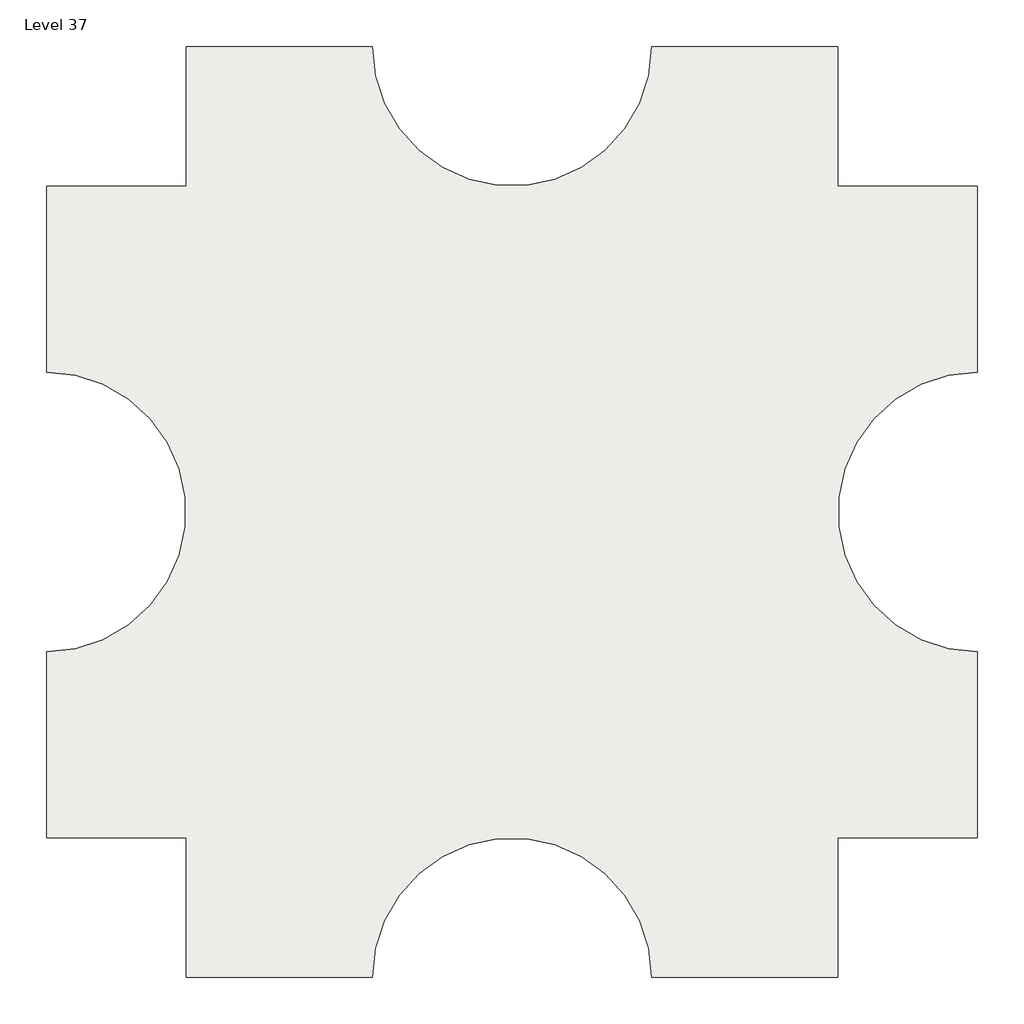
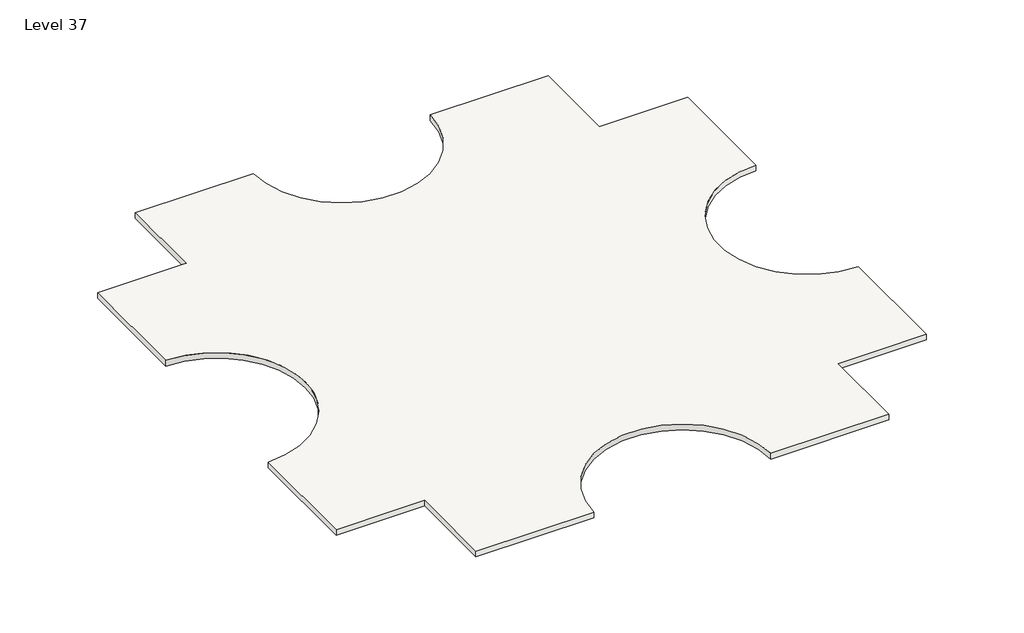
# One storey: 2 slabs.
"""IFC4 building model written with IfcOpenShell, lengths in millimetres."""

import ifcopenshell
import ifcopenshell.guid

model = None  # the IFC model being written
_history = None  # IfcOwnerHistory: only IFC2X3 demands one
_inside = {}  # id of a spatial element -> (the spatial element, [elements in it])
_under = {}  # id of a project, library or spatial element -> (it, [spatial elements below it])
_declared = {}  # id of a project -> (the project, [libraries it declares])
_typed = {}  # id of a type object -> (the type object, [elements of that type])
_made_of = {}  # id of a material, layer set ... -> (it, [elements and type objects made of it])


def new_model(schema):
    """Start an empty IFC model of exactly this schema.

    Asked for "IFC4X3", IfcOpenShell would pick the latest addendum, in which some entities
    have other attributes; the version numbers below select the first issue.
    IFC2X3 requires an IfcOwnerHistory on every rooted entity: one is made here for all.
    """
    global model, _history
    if schema == "IFC4X3":
        model = ifcopenshell.file(schema_version=(4, 3, 0, 0))
    else:
        model = ifcopenshell.file(schema=schema)
    _inside.clear()
    _under.clear()
    _declared.clear()
    _typed.clear()
    _made_of.clear()
    _history = None
    if model.schema == "IFC2X3":
        org = make("IfcOrganization", Name="unknown")
        user = make(
            "IfcPersonAndOrganization",
            ThePerson=make("IfcPerson", FamilyName="unknown"),
            TheOrganization=org,
        )
        app = make(
            "IfcApplication",
            ApplicationDeveloper=org,
            Version="unknown",
            ApplicationFullName="unknown",
            ApplicationIdentifier="unknown",
        )
        _history = make(
            "IfcOwnerHistory",
            OwningUser=user,
            OwningApplication=app,
            ChangeAction="ADDED",
            CreationDate=0,
        )
    return model


def make(cls, **values):
    """One entity of the class cls with the attributes given. An attribute that is None is left unset."""
    return model.create_entity(
        cls, **{name: value for name, value in values.items() if value is not None}
    )


def rooted(cls, **values):
    """An entity with a GlobalId (a new one), such as an element, a storey or a relation."""
    return make(cls, GlobalId=ifcopenshell.guid.new(), OwnerHistory=_history, **values)


def si_unit(unit_type, name, prefix=None):
    """IfcSIUnit, for example si_unit("LENGTHUNIT", "METRE", prefix="MILLI")."""
    return make("IfcSIUnit", UnitType=unit_type, Prefix=prefix, Name=name)


def assignment(units):
    """IfcUnitAssignment: the units of a project."""
    return None if units is None else make("IfcUnitAssignment", Units=units)


def point(xyz):
    """IfcCartesianPoint."""
    return None if xyz is None else make("IfcCartesianPoint", Coordinates=xyz)


def direction(xyz):
    """IfcDirection."""
    return None if xyz is None else make("IfcDirection", DirectionRatios=xyz)


def frame(location, z_axis=None, x_axis=None):
    """IfcAxis2Placement3D, a coordinate frame: its origin and axes. An axis left out is left unset."""
    return make(
        "IfcAxis2Placement3D",
        Location=point(location),
        Axis=direction(z_axis),
        RefDirection=direction(x_axis),
    )


def frame_2d(location, x_axis=None):
    """IfcAxis2Placement2D, a coordinate frame in the plane: its origin and x axis."""
    return make(
        "IfcAxis2Placement2D", Location=point(location), RefDirection=direction(x_axis)
    )


def origin():
    """The frame at (0, 0, 0) with its axes left unset."""
    return frame((0.0, 0.0, 0.0))


def place(relative_to, where):
    """IfcLocalPlacement: puts the frame where relative to a parent placement (None: the world)."""
    return make(
        "IfcLocalPlacement", PlacementRelTo=relative_to, RelativePlacement=where
    )


def context(
    kind, dimensions, precision=None, world=None, true_north=None, identifier=None
):
    """IfcGeometricRepresentationContext, for example the 3D "Model" context."""
    return make(
        "IfcGeometricRepresentationContext",
        ContextIdentifier=identifier,
        ContextType=kind,
        CoordinateSpaceDimension=dimensions,
        Precision=precision,
        WorldCoordinateSystem=world,
        TrueNorth=true_north,
    )


def project(units=None, contexts=None):
    """IfcProject with its units and contexts."""
    return rooted(
        "IfcProject",
        Name="project",
        RepresentationContexts=contexts,
        UnitsInContext=assignment(units),
    )


def spatial(cls, under=None, at=None, **own):
    """A site, building, storey or space (cls), placed at a placement, below another one or the project."""
    s = rooted(cls, ObjectPlacement=at, **own)
    if under is not None:
        _under.setdefault(under.id(), (under, []))[1].append(s)
    return s


def polyline(points):
    """IfcPolyline through the points."""
    return make("IfcPolyline", Points=[point(p) for p in points])


def circle_curve(where, radius):
    """IfcCircle in the frame where."""
    return make("IfcCircle", Position=where, Radius=radius)


def trimmed(basis, trim1, trim2, sense, master):
    """IfcTrimmedCurve: the piece of a basis curve between two trims."""
    return make(
        "IfcTrimmedCurve",
        BasisCurve=basis,
        Trim1=trim1,
        Trim2=trim2,
        SenseAgreement=sense,
        MasterRepresentation=master,
    )


def segment(curve, same_sense, transition):
    """IfcCompositeCurveSegment."""
    return make(
        "IfcCompositeCurveSegment",
        Transition=transition,
        SameSense=same_sense,
        ParentCurve=curve,
    )


def composite_curve(segments, self_intersect=None):
    """IfcCompositeCurve: segments joined end to end."""
    return make("IfcCompositeCurve", Segments=segments, SelfIntersect=self_intersect)


def outline(outer, holes=None, kind="AREA"):
    """IfcArbitraryClosedProfileDef: a profile drawn as a closed curve; with holes, ...WithVoids."""
    if holes is None:
        return make("IfcArbitraryClosedProfileDef", ProfileType=kind, OuterCurve=outer)
    return make(
        "IfcArbitraryProfileDefWithVoids",
        ProfileType=kind,
        OuterCurve=outer,
        InnerCurves=holes,
    )


def extrude(swept, where, along, depth):
    """IfcExtrudedAreaSolid: the profile swept, set in the frame where, extruded along a direction by depth."""
    return make(
        "IfcExtrudedAreaSolid",
        SweptArea=swept,
        Position=where,
        ExtrudedDirection=direction(along),
        Depth=depth,
    )


def shape(context_of_items, identifier, shape_type, items):
    """IfcShapeRepresentation: the items that make up one representation, for example the "Body"."""
    return make(
        "IfcShapeRepresentation",
        ContextOfItems=context_of_items,
        RepresentationIdentifier=identifier,
        RepresentationType=shape_type,
        Items=items,
    )


def made_of(thing, what):
    """Note that an element or type object is made of a material, layer set ...; save() writes the relation."""
    if what is not None:
        _made_of.setdefault(what.id(), (what, []))[1].append(thing)
    return thing


def element(
    cls,
    number,
    at=None,
    inside=None,
    cuts=None,
    type_object=None,
    material=None,
    context=None,
    identifier="Body",
    shape_type=None,
    held_by="IfcProductDefinitionShape",
    body=None,
    shapes=None,
    **own,
):
    """One element of the class cls, such as IfcWall. Its Tag is "e" and its number.

    at: its placement. inside: the storey or other place that contains it. cuts: it is an
    opening in that element (IfcRelVoidsElement). A single representation is given by context,
    identifier, shape_type and body (its items); several are given by shapes. held_by: the class
    of the entity that holds the representations. save() writes the other relations.
    """
    e = rooted(cls, Tag="e%d" % number, ObjectPlacement=at, **own)
    if body is not None:
        shapes = [shape(context, identifier, shape_type, body)]
    if shapes is not None:
        e.Representation = make(held_by, Representations=shapes)
    if inside is not None:
        _inside.setdefault(inside.id(), (inside, []))[1].append(e)
    if cuts is not None:
        rooted(
            "IfcRelVoidsElement", RelatingBuildingElement=cuts, RelatedOpeningElement=e
        )
    if type_object is not None:
        _typed.setdefault(type_object.id(), (type_object, []))[1].append(e)
    return made_of(e, material)


def aggregate(whole, parts):
    """IfcRelAggregates: a whole, such as a stair, and the parts it consists of."""
    return rooted("IfcRelAggregates", RelatingObject=whole, RelatedObjects=parts)


def save(model, path):
    """Write the relations noted so far, then the file.

    IfcRelAggregates (storeys below a building ...), IfcRelContainedInSpatialStructure (elements
    in a storey), IfcRelDefinesByType, IfcRelAssociatesMaterial and IfcRelDeclares: one each for
    every whole, place, type object, material and project.
    """
    for whole, parts in _under.values():
        aggregate(whole, parts)
    for where, things in _inside.values():
        rooted(
            "IfcRelContainedInSpatialStructure",
            RelatedElements=things,
            RelatingStructure=where,
        )
    for kind, things in _typed.values():
        rooted("IfcRelDefinesByType", RelatedObjects=things, RelatingType=kind)
    for what, things in _made_of.values():
        rooted("IfcRelAssociatesMaterial", RelatedObjects=things, RelatingMaterial=what)
    for by, libraries in _declared.values():
        rooted("IfcRelDeclares", RelatingContext=by, RelatedDefinitions=libraries)
    model.write(path)


model = new_model("IFC4")

# Units and contexts
model_context = context("Model", 3, world=origin())
ifc_project = project(units=[si_unit("LENGTHUNIT", "METRE", prefix="MILLI")], contexts=[model_context])

# Site, building, storey
site = spatial("IfcSite", under=ifc_project)
building = spatial("IfcBuilding", under=site)
storey = spatial("IfcBuildingStorey", under=building, Name="Level 37", Elevation=109728.0)

# Slabs
placement = place(None, origin())
element("IfcSlab", 1, ObjectType="Generic - 12\"", at=placement, inside=storey, context=model_context, shape_type="SweptSolid", body=[
    extrude(outline(composite_curve([segment(polyline([(-7150.3629456, 4479.6634547), (-7150.3629456, 9051.6634547), (-1054.3629456, 9051.6634547)]), True, "CONTINUOUS"), segment(trimmed(circle_curve(frame_2d((3517.6370544, 9051.6634547)), 4572.0), [point((-1054.3629456, 9051.6634547))], [point((8089.6370544, 9051.6634547))], True, "CARTESIAN"), True, "CONTINUOUS"), segment(polyline([(8089.6370544, 9051.6634547), (14185.6370544, 9051.6634547), (14185.6370544, 4479.6634547), (18757.6370544, 4479.6634547), (18757.6370544, -1616.3365453)]), True, "CONTINUOUS"), segment(trimmed(circle_curve(frame_2d((18757.6370544, -6188.3365453)), 4572.0), [point((18757.6370544, -1616.3365453))], [point((18757.6370544, -10760.3365453))], True, "CARTESIAN"), True, "CONTINUOUS"), segment(polyline([(18757.6370544, -10760.3365453), (18757.6370544, -16856.3365453), (14185.6370544, -16856.3365453), (14185.6370544, -21428.3365453), (8089.6370544, -21428.3365453)]), True, "CONTINUOUS"), segment(trimmed(circle_curve(frame_2d((3517.6370544, -21428.3365453)), 4572.0), [point((8089.6370544, -21428.3365453))], [point((-1054.3629456, -21428.3365453))], True, "CARTESIAN"), True, "CONTINUOUS"), segment(polyline([(-1054.3629456, -21428.3365453), (-7150.3629456, -21428.3365453), (-7150.3629456, -16856.3365453), (-11722.3629456, -16856.3365453), (-11722.3629456, -10760.3365453)]), True, "CONTINUOUS"), segment(trimmed(circle_curve(frame_2d((-11722.3629456, -6188.3365453)), 4572.0), [point((-11722.3629456, -10760.3365453))], [point((-11722.3629456, -1616.3365453))], True, "CARTESIAN"), True, "CONTINUOUS"), segment(polyline([(-11722.3629456, -1616.3365453), (-11722.3629456, 4479.6634547), (-7150.3629456, 4479.6634547)]), True, "CONTINUOUS")], self_intersect=False)), frame((0.0, 0.0, 109423.2), z_axis=(0.0, 0.0, 1.0), x_axis=(1.0, 0.0, 0.0)), (0.0, 0.0, 1.0), 304.8),
])
element("IfcSlab", 2, ObjectType="Generic - 12\"", at=placement, inside=storey, context=model_context, shape_type="SweptSolid", body=[
    extrude(outline(composite_curve([segment(polyline([(-7150.3629456, 4479.6634547), (-7150.3629456, 9051.6634547), (-1054.3629456, 9051.6634547)]), True, "CONTINUOUS"), segment(trimmed(circle_curve(frame_2d((3517.6370544, 9051.6634547)), 4572.0), [point((-1054.3629456, 9051.6634547))], [point((8089.6370544, 9051.6634547))], True, "CARTESIAN"), True, "CONTINUOUS"), segment(polyline([(8089.6370544, 9051.6634547), (14185.6370544, 9051.6634547), (14185.6370544, 4479.6634547), (18757.6370544, 4479.6634547), (18757.6370544, -1616.3365453)]), True, "CONTINUOUS"), segment(trimmed(circle_curve(frame_2d((18757.6370544, -6188.3365453)), 4572.0), [point((18757.6370544, -1616.3365453))], [point((18757.6370544, -10760.3365453))], True, "CARTESIAN"), True, "CONTINUOUS"), segment(polyline([(18757.6370544, -10760.3365453), (18757.6370544, -16856.3365453), (14185.6370544, -16856.3365453), (14185.6370544, -21428.3365453), (8089.6370544, -21428.3365453)]), True, "CONTINUOUS"), segment(trimmed(circle_curve(frame_2d((3517.6370544, -21428.3365453)), 4572.0), [point((8089.6370544, -21428.3365453))], [point((-1054.3629456, -21428.3365453))], True, "CARTESIAN"), True, "CONTINUOUS"), segment(polyline([(-1054.3629456, -21428.3365453), (-7150.3629456, -21428.3365453), (-7150.3629456, -16856.3365453), (-11722.3629456, -16856.3365453), (-11722.3629456, -10760.3365453)]), True, "CONTINUOUS"), segment(trimmed(circle_curve(frame_2d((-11722.3629456, -6188.3365453)), 4572.0), [point((-11722.3629456, -10760.3365453))], [point((-11722.3629456, -1616.3365453))], True, "CARTESIAN"), True, "CONTINUOUS"), segment(polyline([(-11722.3629456, -1616.3365453), (-11722.3629456, 4479.6634547), (-7150.3629456, 4479.6634547)]), True, "CONTINUOUS")], self_intersect=False)), frame((0.0, 0.0, 109423.2), z_axis=(0.0, 0.0, 1.0), x_axis=(1.0, 0.0, 0.0)), (0.0, 0.0, 1.0), 304.8),
])

save(model, "model.ifc")
